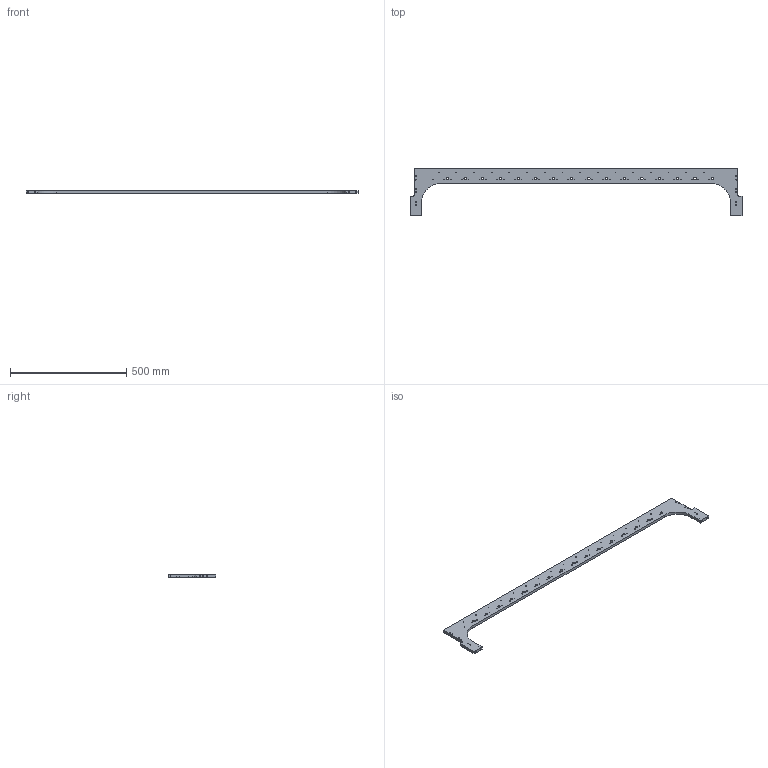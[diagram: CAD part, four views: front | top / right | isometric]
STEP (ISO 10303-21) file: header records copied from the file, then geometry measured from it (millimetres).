
FILE_DESCRIPTION (( 'STEP AP214' ), '1' );
FILE_NAME ('DLS240202045-HY.step', '2026-09-29T02:47:38', ( '' ), ( '' ), 'SwSTEP 2.0', 'SolidWorks 2023', '' );
FILE_SCHEMA (( 'AUTOMOTIVE_DESIGN' ));
Length unit declared in the file: millimetre
Products named in the file (1): DLS240202045-HY
Bounding box: 1427 x 206 x 12 mm (x, y, z)
Volume: 1266248.6 mm3; surface area: 270441.6 mm2
Topology: 1 solids, 1 shells, 242 faces, 684 edges, 426 vertices
Faces by surface type: cylinder 192, cone 36, plane 14
Entity records: 8079 total; most frequent: DIRECTION 1518, CARTESIAN_POINT 1317, ORIENTED_EDGE 1296, EDGE_CURVE 648, AXIS2_PLACEMENT_3D 627, VERTEX_POINT 426, EDGE_LOOP 412, CIRCLE 384
